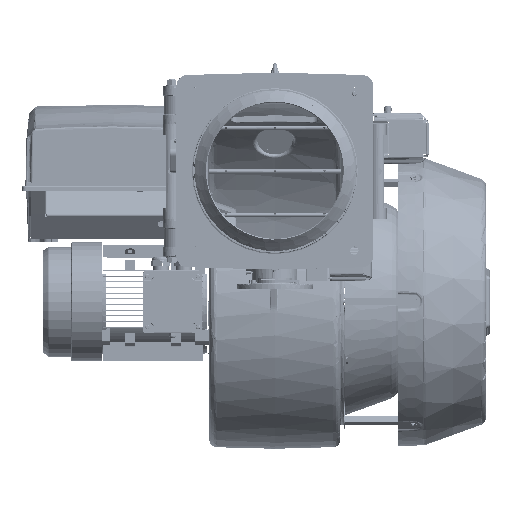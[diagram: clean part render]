
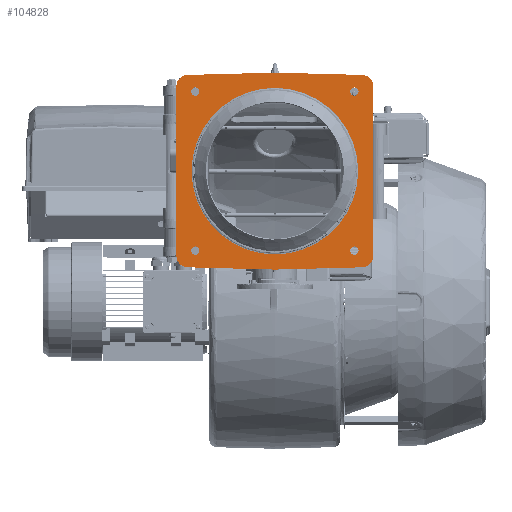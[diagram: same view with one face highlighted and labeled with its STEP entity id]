
A CAD part, top view. The second image highlights one B-rep face of the part: STEP entity #104828.
In plain terms, the highlighted planar face has unit normal (0, 0, 1).
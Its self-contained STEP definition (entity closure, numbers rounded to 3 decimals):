
#6704 = LINE ( 'NONE', #139928, #154292 ) ;
#8847 = ORIENTED_EDGE ( 'NONE', *, *, #157966, .T. ) ;
#10528 = CARTESIAN_POINT ( 'NONE',  ( 0., 603.5, 843.5 ) ) ;
#13881 = AXIS2_PLACEMENT_3D ( 'NONE', #329079, #271042, #152682 ) ;
#15992 = DIRECTION ( 'NONE',  ( 0., 0., 1. ) ) ;
#16374 = DIRECTION ( 'NONE',  ( 0., 0., -1. ) ) ;
#19833 = DIRECTION ( 'NONE',  ( -1., 0., 0. ) ) ;
#19868 = DIRECTION ( 'NONE',  ( -1., 0., 0. ) ) ;
#22266 = DIRECTION ( 'NONE',  ( 0., 0., -1. ) ) ;
#22764 = CIRCLE ( 'NONE', #61465, 30. ) ;
#27833 = AXIS2_PLACEMENT_3D ( 'NONE', #268755, #333249, #301023 ) ;
#30477 = CARTESIAN_POINT ( 'NONE',  ( 0., 83.5, 843.5 ) ) ;
#31268 = VERTEX_POINT ( 'NONE', #271915 ) ;
#34135 = AXIS2_PLACEMENT_3D ( 'NONE', #169280, #22266, #259222 ) ;
#40068 = CARTESIAN_POINT ( 'NONE',  ( 260., 567.467, 843.5 ) ) ;
#45685 = DIRECTION ( 'NONE',  ( -1., 0., 0. ) ) ;
#49785 = ORIENTED_EDGE ( 'NONE', *, *, #332041, .T. ) ;
#52384 = CIRCLE ( 'NONE', #189135, 30. ) ;
#58779 = VERTEX_POINT ( 'NONE', #244842 ) ;
#61380 = EDGE_CURVE ( 'NONE', #178700, #233948, #111166, .T. ) ;
#61465 = AXIS2_PLACEMENT_3D ( 'NONE', #188908, #15992, #45685 ) ;
#63762 = CARTESIAN_POINT ( 'NONE',  ( 210., 133.5, 843.5 ) ) ;
#63966 = VECTOR ( 'NONE', #335298, 1000. ) ;
#72523 = CIRCLE ( 'NONE', #34135, 11. ) ;
#73164 = AXIS2_PLACEMENT_3D ( 'NONE', #63762, #327877, #269826 ) ;
#73263 = LINE ( 'NONE', #100768, #63966 ) ;
#74115 = FACE_BOUND ( 'NONE', #353913, .T. ) ;
#77602 = VERTEX_POINT ( 'NONE', #91613 ) ;
#77742 = VERTEX_POINT ( 'NONE', #10528 ) ;
#79308 = VECTOR ( 'NONE', #158740, 1000. ) ;
#80053 = CARTESIAN_POINT ( 'NONE',  ( 230., 567.467, 843.5 ) ) ;
#82827 = ORIENTED_EDGE ( 'NONE', *, *, #160826, .T. ) ;
#85471 = EDGE_CURVE ( 'NONE', #336211, #364566, #223100, .T. ) ;
#90330 = ORIENTED_EDGE ( 'NONE', *, *, #252501, .F. ) ;
#91613 = CARTESIAN_POINT ( 'NONE',  ( -221., 133.5, 843.5 ) ) ;
#92034 = CIRCLE ( 'NONE', #362188, 11. ) ;
#94439 = AXIS2_PLACEMENT_3D ( 'NONE', #306445, #334868, #132510 ) ;
#95414 = CARTESIAN_POINT ( 'NONE',  ( -260., 567.467, 843.5 ) ) ;
#96815 = LINE ( 'NONE', #296307, #368905 ) ;
#100768 = CARTESIAN_POINT ( 'NONE',  ( -260., 90.308, 843.5 ) ) ;
#104594 = LINE ( 'NONE', #343582, #210806 ) ;
#104828 = ADVANCED_FACE ( 'NONE', ( #166168, #336988, #313509, #299977, #74115, #350617 ), #132461, .F. ) ;
#109992 = CARTESIAN_POINT ( 'NONE',  ( -210., 553.5, 843.5 ) ) ;
#111166 = CIRCLE ( 'NONE', #328539, 30. ) ;
#118838 = EDGE_CURVE ( 'NONE', #329514, #265677, #148587, .T. ) ;
#129735 = CARTESIAN_POINT ( 'NONE',  ( 260., 119.533, 843.5 ) ) ;
#132461 = PLANE ( 'NONE',  #228057 ) ;
#132510 = DIRECTION ( 'NONE',  ( -1., 0., 0. ) ) ;
#139096 = ORIENTED_EDGE ( 'NONE', *, *, #164215, .F. ) ;
#139576 = DIRECTION ( 'NONE',  ( 1., -0.026, 0. ) ) ;
#139928 = CARTESIAN_POINT ( 'NONE',  ( 260., 90.308, 843.5 ) ) ;
#148587 = LINE ( 'NONE', #246236, #79308 ) ;
#149627 = ORIENTED_EDGE ( 'NONE', *, *, #311456, .T. ) ;
#152682 = DIRECTION ( 'NONE',  ( -1., 0., 0. ) ) ;
#154292 = VECTOR ( 'NONE', #199198, 1000. ) ;
#157966 = EDGE_CURVE ( 'NONE', #285290, #285290, #92034, .T. ) ;
#158740 = DIRECTION ( 'NONE',  ( 0., -1., 0. ) ) ;
#159126 = EDGE_LOOP ( 'NONE', ( #240093, #149627, #216815, #139096, #374498, #366119, #182388, #369167, #90330, #49785 ) ) ;
#159273 = EDGE_LOOP ( 'NONE', ( #8847 ) ) ;
#159681 = EDGE_CURVE ( 'NONE', #178700, #364566, #73263, .T. ) ;
#160826 = EDGE_CURVE ( 'NONE', #345248, #345248, #72523, .T. ) ;
#164215 = EDGE_CURVE ( 'NONE', #336211, #77742, #104594, .T. ) ;
#166168 = FACE_BOUND ( 'NONE', #159273, .T. ) ;
#167180 = DIRECTION ( 'NONE',  ( 1., 0.026, 0. ) ) ;
#169280 = CARTESIAN_POINT ( 'NONE',  ( 210., 553.5, 843.5 ) ) ;
#171604 = DIRECTION ( 'NONE',  ( -1., 0., 0. ) ) ;
#178700 = VERTEX_POINT ( 'NONE', #315673 ) ;
#182388 = ORIENTED_EDGE ( 'NONE', *, *, #61380, .T. ) ;
#186307 = EDGE_LOOP ( 'NONE', ( #82827 ) ) ;
#188908 = CARTESIAN_POINT ( 'NONE',  ( 230., 119.533, 843.5 ) ) ;
#189135 = AXIS2_PLACEMENT_3D ( 'NONE', #80053, #319580, #171604 ) ;
#190531 = CARTESIAN_POINT ( 'NONE',  ( 0., 343.5, 843.5 ) ) ;
#192692 = CARTESIAN_POINT ( 'NONE',  ( -230., 119.533, 843.5 ) ) ;
#199198 = DIRECTION ( 'NONE',  ( -1., -0.026, 0. ) ) ;
#204400 = EDGE_CURVE ( 'NONE', #77602, #77602, #250114, .T. ) ;
#210106 = VECTOR ( 'NONE', #139576, 1000. ) ;
#210806 = VECTOR ( 'NONE', #167180, 1000. ) ;
#216815 = ORIENTED_EDGE ( 'NONE', *, *, #231644, .F. ) ;
#223100 = CIRCLE ( 'NONE', #27833, 30. ) ;
#224690 = CARTESIAN_POINT ( 'NONE',  ( 230.785, 597.457, 843.5 ) ) ;
#225009 = EDGE_CURVE ( 'NONE', #280123, #233948, #96815, .T. ) ;
#228057 = AXIS2_PLACEMENT_3D ( 'NONE', #190531, #16374, #281767 ) ;
#230954 = EDGE_CURVE ( 'NONE', #58779, #58779, #297666, .T. ) ;
#231644 = EDGE_CURVE ( 'NONE', #77742, #304948, #288337, .T. ) ;
#233166 = EDGE_LOOP ( 'NONE', ( #370714 ) ) ;
#233948 = VERTEX_POINT ( 'NONE', #254966 ) ;
#240093 = ORIENTED_EDGE ( 'NONE', *, *, #118838, .F. ) ;
#241254 = ORIENTED_EDGE ( 'NONE', *, *, #230954, .T. ) ;
#242894 = VERTEX_POINT ( 'NONE', #346361 ) ;
#244842 = CARTESIAN_POINT ( 'NONE',  ( -220., 343.5, 843.5 ) ) ;
#245751 = CIRCLE ( 'NONE', #73164, 11. ) ;
#246236 = CARTESIAN_POINT ( 'NONE',  ( 260., 596.692, 843.5 ) ) ;
#250114 = CIRCLE ( 'NONE', #13881, 11. ) ;
#251780 = DIRECTION ( 'NONE',  ( 0., 0., 1. ) ) ;
#252501 = EDGE_CURVE ( 'NONE', #31268, #280123, #6704, .T. ) ;
#252930 = CARTESIAN_POINT ( 'NONE',  ( 0., 603.5, 843.5 ) ) ;
#254966 = CARTESIAN_POINT ( 'NONE',  ( -230.785, 89.543, 843.5 ) ) ;
#256189 = EDGE_CURVE ( 'NONE', #242894, #242894, #245751, .T. ) ;
#259222 = DIRECTION ( 'NONE',  ( -1., 0., 0. ) ) ;
#263455 = CARTESIAN_POINT ( 'NONE',  ( -230.785, 597.457, 843.5 ) ) ;
#265677 = VERTEX_POINT ( 'NONE', #129735 ) ;
#268755 = CARTESIAN_POINT ( 'NONE',  ( -230., 567.467, 843.5 ) ) ;
#269826 = DIRECTION ( 'NONE',  ( -1., 0., 0. ) ) ;
#271042 = DIRECTION ( 'NONE',  ( 0., 0., -1. ) ) ;
#271915 = CARTESIAN_POINT ( 'NONE',  ( 230.785, 89.543, 843.5 ) ) ;
#280123 = VERTEX_POINT ( 'NONE', #30477 ) ;
#281767 = DIRECTION ( 'NONE',  ( -1., 0., 0. ) ) ;
#284160 = EDGE_LOOP ( 'NONE', ( #303036 ) ) ;
#285290 = VERTEX_POINT ( 'NONE', #291359 ) ;
#288337 = LINE ( 'NONE', #252930, #210106 ) ;
#291359 = CARTESIAN_POINT ( 'NONE',  ( -221., 553.5, 843.5 ) ) ;
#296307 = CARTESIAN_POINT ( 'NONE',  ( 0., 83.5, 843.5 ) ) ;
#297666 = CIRCLE ( 'NONE', #94439, 220. ) ;
#299977 = FACE_BOUND ( 'NONE', #186307, .T. ) ;
#301023 = DIRECTION ( 'NONE',  ( -1., 0., 0. ) ) ;
#303036 = ORIENTED_EDGE ( 'NONE', *, *, #204400, .T. ) ;
#304948 = VERTEX_POINT ( 'NONE', #224690 ) ;
#306445 = CARTESIAN_POINT ( 'NONE',  ( 0., 343.5, 843.5 ) ) ;
#311456 = EDGE_CURVE ( 'NONE', #329514, #304948, #52384, .T. ) ;
#313509 = FACE_BOUND ( 'NONE', #233166, .T. ) ;
#315673 = CARTESIAN_POINT ( 'NONE',  ( -260., 119.533, 843.5 ) ) ;
#317341 = DIRECTION ( 'NONE',  ( 0., 0., -1. ) ) ;
#319580 = DIRECTION ( 'NONE',  ( 0., 0., 1. ) ) ;
#327877 = DIRECTION ( 'NONE',  ( 0., 0., -1. ) ) ;
#328476 = DIRECTION ( 'NONE',  ( -1., 0.026, 0. ) ) ;
#328539 = AXIS2_PLACEMENT_3D ( 'NONE', #192692, #251780, #19868 ) ;
#329079 = CARTESIAN_POINT ( 'NONE',  ( -210., 133.5, 843.5 ) ) ;
#329514 = VERTEX_POINT ( 'NONE', #40068 ) ;
#332041 = EDGE_CURVE ( 'NONE', #31268, #265677, #22764, .T. ) ;
#333249 = DIRECTION ( 'NONE',  ( 0., 0., 1. ) ) ;
#334868 = DIRECTION ( 'NONE',  ( 0., 0., -1. ) ) ;
#335298 = DIRECTION ( 'NONE',  ( 0., 1., 0. ) ) ;
#336211 = VERTEX_POINT ( 'NONE', #263455 ) ;
#336988 = FACE_BOUND ( 'NONE', #284160, .T. ) ;
#343582 = CARTESIAN_POINT ( 'NONE',  ( -260., 596.692, 843.5 ) ) ;
#345248 = VERTEX_POINT ( 'NONE', #380243 ) ;
#346361 = CARTESIAN_POINT ( 'NONE',  ( 199., 133.5, 843.5 ) ) ;
#350617 = FACE_OUTER_BOUND ( 'NONE', #159126, .T. ) ;
#353913 = EDGE_LOOP ( 'NONE', ( #241254 ) ) ;
#362188 = AXIS2_PLACEMENT_3D ( 'NONE', #109992, #317341, #19833 ) ;
#364566 = VERTEX_POINT ( 'NONE', #95414 ) ;
#366119 = ORIENTED_EDGE ( 'NONE', *, *, #159681, .F. ) ;
#368905 = VECTOR ( 'NONE', #328476, 1000. ) ;
#369167 = ORIENTED_EDGE ( 'NONE', *, *, #225009, .F. ) ;
#370714 = ORIENTED_EDGE ( 'NONE', *, *, #256189, .T. ) ;
#374498 = ORIENTED_EDGE ( 'NONE', *, *, #85471, .T. ) ;
#380243 = CARTESIAN_POINT ( 'NONE',  ( 199., 553.5, 843.5 ) ) ;
